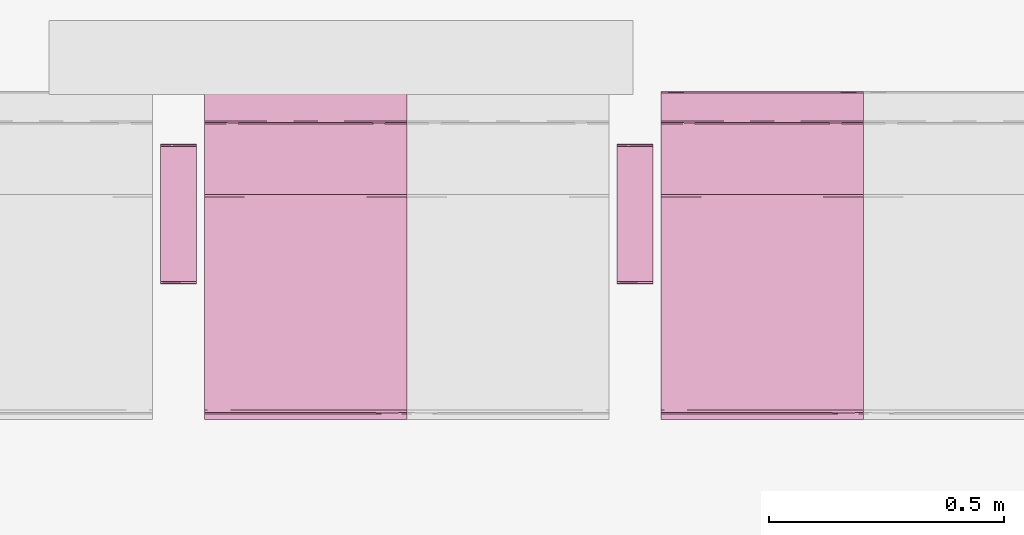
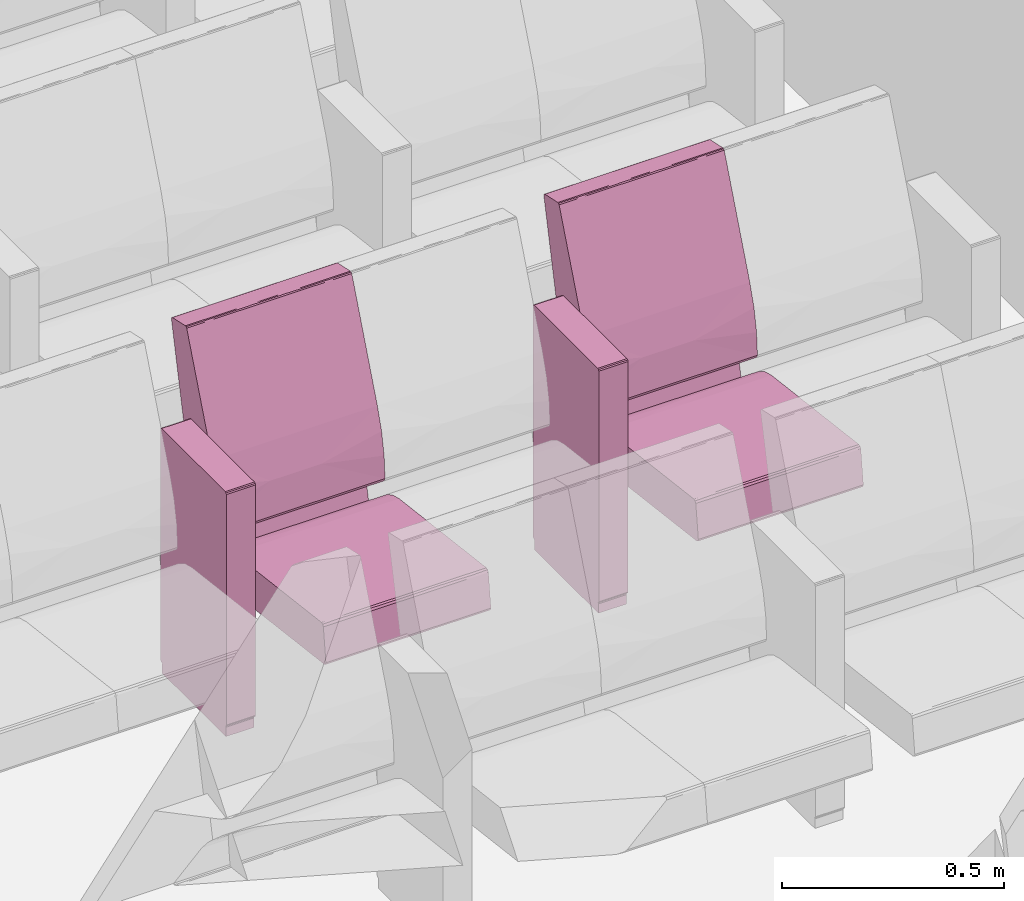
# One storey, part 134 of 155: 2 furnishings.
"""IFC2X3 building model written with IfcOpenShell, lengths in metres."""

from ifc_helpers import new_model, entity, si_unit, converted_unit, derived_unit, direction, frame, origin, place, context, subcontext, project, spatial, faceted_brep, source, transform, mapped, material, material_list, type_object, type_shapes, element, save


model = new_model("IFC2X3")

# Units and contexts
model_context = context("Model", 3, precision=1e-05, world=origin(), true_north=direction((6.12303176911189e-17, 1.0)))
body_context = subcontext(model_context, "Body", "Model", "MODEL_VIEW")
ifc_project = project(units=[si_unit("LENGTHUNIT", "METRE"), si_unit("AREAUNIT", "SQUARE_METRE"), si_unit("VOLUMEUNIT", "CUBIC_METRE"), converted_unit("PLANEANGLEUNIT", "DEGREE", entity("IfcRatioMeasure", 0.0174532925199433), si_unit("PLANEANGLEUNIT", "RADIAN"), dimensions=[0, 0, 0, 0, 0, 0, 0]), si_unit("MASSUNIT", "GRAM", prefix="KILO"), derived_unit("MASSDENSITYUNIT", [(si_unit("MASSUNIT", "GRAM", prefix="KILO"), 1), (si_unit("LENGTHUNIT", "METRE"), -3)]), si_unit("TIMEUNIT", "SECOND"), si_unit("FREQUENCYUNIT", "HERTZ"), si_unit("THERMODYNAMICTEMPERATUREUNIT", "DEGREE_CELSIUS"), derived_unit("THERMALTRANSMITTANCEUNIT", [(si_unit("MASSUNIT", "GRAM", prefix="KILO"), 1), (si_unit("THERMODYNAMICTEMPERATUREUNIT", "KELVIN"), -1), (si_unit("TIMEUNIT", "SECOND"), -3)]), derived_unit("VOLUMETRICFLOWRATEUNIT", [(si_unit("LENGTHUNIT", "METRE"), 3), (si_unit("TIMEUNIT", "SECOND"), -1)]), si_unit("ELECTRICCURRENTUNIT", "AMPERE"), si_unit("ELECTRICVOLTAGEUNIT", "VOLT"), si_unit("POWERUNIT", "WATT"), si_unit("FORCEUNIT", "NEWTON", prefix="KILO"), si_unit("ILLUMINANCEUNIT", "LUX"), si_unit("LUMINOUSFLUXUNIT", "LUMEN"), si_unit("LUMINOUSINTENSITYUNIT", "CANDELA"), derived_unit("USERDEFINED", [(si_unit("MASSUNIT", "GRAM", prefix="KILO"), -1), (si_unit("LENGTHUNIT", "METRE"), -2), (si_unit("TIMEUNIT", "SECOND"), 3), (si_unit("LUMINOUSFLUXUNIT", "LUMEN"), 1)]), derived_unit("LINEARVELOCITYUNIT", [(si_unit("LENGTHUNIT", "METRE"), 1), (si_unit("TIMEUNIT", "SECOND"), -1)]), si_unit("PRESSUREUNIT", "PASCAL"), derived_unit("USERDEFINED", [(si_unit("LENGTHUNIT", "METRE"), -2), (si_unit("MASSUNIT", "GRAM", prefix="KILO"), 1), (si_unit("TIMEUNIT", "SECOND"), -2)])], contexts=[model_context])

# Site, building, storey, space
site_placement = place(None, frame((26.9889013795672, -17.5624287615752, 0.0)))
site = spatial("IfcSite", under=ifc_project, at=site_placement, Name="Default", CompositionType="ELEMENT")
building_placement = place(site_placement, origin())
building = spatial("IfcBuilding", under=site, at=building_placement, Name="C. C. L. Monsenhor Antônio Sampaio", CompositionType="ELEMENT")
storey_placement = place(building_placement, frame((0.0, 0.0, 1.19999999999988)))
storey = spatial("IfcBuildingStorey", under=building, at=storey_placement, Name="Nível 1.2", CompositionType="ELEMENT", Elevation=1.19999999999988)
space_placement = place(storey_placement, origin())
space = spatial("IfcSpace", under=storey, at=space_placement, Name="94", CompositionType="ELEMENT", InteriorOrExteriorSpace="INTERNAL")

# Furnishings
ifc_material_1 = material(Name="V9 - V9 - Ecopelle_672_658")
ifc_material_2 = material(Name="V9 - V9 - RAL_9006_Grigio")
ifc_material_list_1 = material_list([ifc_material_1, ifc_material_2])
ifc_material_list_2 = material_list([ifc_material_1, ifc_material_2])
furniture_type = type_object("IfcFurnitureType", Name="Cadeira auditório", material=ifc_material_list_2)
shared_shape = source(origin(), body_context, "Body", "Brep", [
    faceted_brep([(0.405536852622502, 0.156348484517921, 0.339809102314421), (0.410560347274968, 0.131924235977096, 0.34246450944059), (0.405536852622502, 0.1075, 0.339809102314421), (0.405536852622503, 0.0537499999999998, 0.339809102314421), (0.410597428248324, 0.084060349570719, 0.342506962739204), (0.41079981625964, 0.0179166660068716, 0.342749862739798), (0.405536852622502, 0.215, 0.339809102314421), (0.410248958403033, 0.173608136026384, 0.342130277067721), (0.412515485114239, 0.185674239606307, 0.348529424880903), (0.412515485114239, 0.143333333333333, 0.348529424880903), (0.410560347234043, -0.131924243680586, 0.342464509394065), (0.405536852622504, -0.156348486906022, 0.33980910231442), (0.405536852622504, -0.1075, 0.33980910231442), (0.405536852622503, 0.0, 0.33980910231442), (0.41251548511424, 0.0, 0.348529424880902), (0.411170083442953, -0.0341365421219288, 0.343251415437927), (0.41059742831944, -0.0840603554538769, 0.342506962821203), (0.41251548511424, -0.143333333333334, 0.348529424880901), (0.412515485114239, 0.0358333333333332, 0.348529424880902), (0.412515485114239, 0.0716666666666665, 0.348529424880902), (0.405536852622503, -0.0537500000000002, 0.33980910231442), (0.412515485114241, -0.185674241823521, 0.348529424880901), (0.410799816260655, -0.215, 0.342749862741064), (0.410248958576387, -0.173608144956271, 0.342130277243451), (0.410799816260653, 0.215, 0.342749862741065), (0.412515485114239, 0.215, 0.348529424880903), (0.412515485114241, -0.215, 0.348529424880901), (0.41251548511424, -0.0716666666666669, 0.348529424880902), (0.405536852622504, -0.215, 0.33980910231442), (-0.0557900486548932, -0.215, 0.28268145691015), (-0.055790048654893, -0.168631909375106, 0.282681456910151), (-0.0557900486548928, -0.138065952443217, 0.282681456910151), (-0.0557900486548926, -0.107499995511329, 0.282681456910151), (-0.0557900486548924, -0.0806249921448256, 0.282681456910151), (-0.0557900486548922, -0.0537499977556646, 0.282681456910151), (-0.0557900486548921, -0.0268750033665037, 0.282681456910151), (-0.0557900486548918, 0.0, 0.28268145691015), (-0.0557900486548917, 0.0268749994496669, 0.282681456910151), (-0.0557900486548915, 0.0537499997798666, 0.282681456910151), (-0.0557900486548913, 0.0806250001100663, 0.282681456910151), (-0.0557900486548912, 0.107499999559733, 0.282681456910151), (-0.055790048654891, 0.134374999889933, 0.282681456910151), (-0.0557900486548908, 0.161250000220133, 0.282681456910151), (-0.0557900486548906, 0.1881249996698, 0.282681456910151), (-0.0557900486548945, 0.215, 0.28268145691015), (-0.0594787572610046, -0.0152829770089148, 0.283700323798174), (-0.0613666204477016, 0.0, 0.287029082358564), (-0.0594787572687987, 0.0179017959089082, 0.283700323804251), (-0.0613666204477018, 0.191815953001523, 0.287029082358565), (-0.0613666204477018, 0.215, 0.287029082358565), (-0.0594787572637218, 0.215, 0.283700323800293), (-0.0593340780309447, 0.0671874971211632, 0.283591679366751), (-0.0613666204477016, 0.030565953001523, 0.287029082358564), (-0.0594787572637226, -0.215, 0.283700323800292), (-0.0593337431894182, -0.184174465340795, 0.283591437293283), (-0.0613666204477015, -0.122263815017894, 0.287029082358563), (-0.0613666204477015, -0.0916978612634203, 0.287029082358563), (-0.0613666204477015, -0.0611319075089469, 0.287029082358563), (-0.0593023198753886, -0.0940625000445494, 0.283568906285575), (-0.059382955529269, 0.118123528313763, 0.28362747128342), (-0.0613666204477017, 0.122263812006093, 0.287029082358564), (-0.0597338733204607, 0.147039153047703, 0.283913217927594), (-0.0613666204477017, 0.168631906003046, 0.287029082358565), (-0.0592501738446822, 0.180223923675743, 0.283532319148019), (-0.0588783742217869, 0.0926899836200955, 0.283298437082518), (-0.0613666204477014, -0.215, 0.287029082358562), (-0.0613666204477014, -0.168631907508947, 0.287029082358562), (-0.0592576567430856, -0.123736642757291, 0.283537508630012), (-0.0594787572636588, -0.153348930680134, 0.283700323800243), (-0.0613666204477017, 0.0916978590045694, 0.287029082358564), (-0.0613666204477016, -0.0305659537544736, 0.287029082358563), (-0.059645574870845, -0.045848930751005, 0.283836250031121), (-0.0613666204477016, 0.0611319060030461, 0.287029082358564), (-0.069340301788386, -0.215, 0.351419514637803), (-0.0693403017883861, -0.143333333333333, 0.351419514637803), (-0.0693403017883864, -0.0716666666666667, 0.351419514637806), (-0.0693403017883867, 0.0, 0.351419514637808), (-0.069340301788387, 0.0716666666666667, 0.351419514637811), (-0.0693403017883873, 0.143333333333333, 0.351419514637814), (-0.0693403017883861, 0.215, 0.351419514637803), (-0.0597085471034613, 0.0, 0.37476954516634), (-0.0645543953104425, 0.112272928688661, 0.369803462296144), (-0.0653387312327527, 0.0126787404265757, 0.368680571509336), (-0.0681665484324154, -0.0888707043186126, 0.36292533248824), (-0.0655136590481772, -0.10440004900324, 0.368411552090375), (-0.0694879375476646, 0.0590582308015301, 0.356377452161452), (-0.0695056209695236, -0.125492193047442, 0.356093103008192), (-0.0597085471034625, -0.110316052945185, 0.374769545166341), (-0.0690003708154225, 0.132942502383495, 0.359900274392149), (-0.0672851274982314, 0.108066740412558, 0.365148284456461), (-0.0676206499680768, 0.215, 0.364371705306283), (-0.0686241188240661, 0.215, 0.356813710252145), (-0.0686241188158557, -0.214999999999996, 0.356813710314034), (-0.0686999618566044, 0.0358333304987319, 0.36116674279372), (-0.0694502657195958, -0.0358333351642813, 0.356863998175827), (-0.0676206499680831, -0.214999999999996, 0.364371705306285), (-0.0636645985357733, -0.214999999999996, 0.369570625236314), (-0.0597085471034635, -0.214999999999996, 0.374769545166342), (-0.0597085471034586, 0.215, 0.374769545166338), (-0.0636645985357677, 0.215, 0.36957062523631), (-0.0597085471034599, 0.110316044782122, 0.374769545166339), (-0.0324117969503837, 0.215, 0.390639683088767), (-0.0324117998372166, 0.0436847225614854, 0.39063968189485), (-0.0018793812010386, 0.215, 0.398686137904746), (-0.041847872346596, -0.0856576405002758, 0.386239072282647), (-0.0324117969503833, -0.215, 0.390639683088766), (-0.00187938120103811, -0.215, 0.398686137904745), (-0.00187938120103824, -0.102488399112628, 0.398686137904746), (-0.0219042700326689, -0.0570631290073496, 0.394412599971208), (-0.00187938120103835, 0.0, 0.398686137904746), (0.392202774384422, 0.215, 0.447486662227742), (0.392202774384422, -0.215, 0.447486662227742), (0.392202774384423, -0.156349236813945, 0.447486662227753), (0.392202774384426, -0.107499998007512, 0.447486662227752), (0.392202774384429, -0.0537500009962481, 0.44748666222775), (0.392202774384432, 0.0, 0.447486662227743), (0.392202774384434, 0.0537499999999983, 0.447486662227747), (0.392202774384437, 0.107499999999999, 0.447486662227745), (0.392202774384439, 0.156349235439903, 0.447486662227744), (0.398104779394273, -0.131924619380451, 0.445856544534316), (0.401125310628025, -0.0976984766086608, 0.440530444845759), (0.397860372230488, -0.0827732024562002, 0.446039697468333), (0.401125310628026, -0.215000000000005, 0.440530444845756), (0.401125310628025, -0.156349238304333, 0.440530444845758), (0.397373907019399, -0.173462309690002, 0.446363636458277), (0.398104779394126, -0.215000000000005, 0.445856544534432), (0.397860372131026, 0.0827731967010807, 0.446039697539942), (0.398104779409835, 0.131924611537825, 0.445856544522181), (0.398104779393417, -0.0237489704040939, 0.445856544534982), (0.398104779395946, 0.0268749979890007, 0.445856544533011), (0.401125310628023, 0.0488492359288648, 0.440530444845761), (0.401125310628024, -0.0488492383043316, 0.440530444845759), (0.398774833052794, 0.173462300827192, 0.445271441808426), (0.401125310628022, 0.097698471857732, 0.440530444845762), (0.401125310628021, 0.215, 0.440530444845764), (0.39810477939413, 0.215, 0.445856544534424), (0.401125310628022, 0.156349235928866, 0.440530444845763), (0.401125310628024, 0.0, 0.44053044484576)], [[[0, 1, 2]], [[3, 4, 5]], [[6, 7, 0]], [[7, 8, 9]], [[10, 11, 12]], [[3, 5, 13]], [[14, 15, 5]], [[16, 17, 10]], [[9, 1, 7]], [[18, 5, 4]], [[4, 9, 19, 18]], [[9, 4, 1]], [[2, 1, 4]], [[13, 15, 20]], [[21, 22, 23]], [[5, 18, 14]], [[24, 25, 8]], [[22, 21, 26]], [[24, 7, 6]], [[23, 11, 10]], [[20, 15, 16]], [[3, 2, 4]], [[14, 27, 15]], [[5, 15, 13]], [[27, 17, 16]], [[10, 12, 16]], [[21, 23, 17]], [[20, 16, 12]], [[15, 27, 16]], [[7, 1, 0]], [[28, 11, 23]], [[8, 7, 24]], [[23, 10, 17]], [[28, 23, 22]], [[28, 29, 30, 31, 32, 33, 34, 35, 36, 37, 38, 39, 40, 41, 42, 43, 44, 6, 0, 2, 3, 13, 20, 12, 11]], [[45, 46, 47]], [[48, 49, 50]], [[51, 47, 52]], [[29, 53, 54]], [[55, 56, 57, 58]], [[59, 60, 61]], [[61, 62, 63]], [[51, 64, 39]], [[65, 66, 54]], [[31, 67, 32]], [[45, 47, 38, 37, 36, 35]], [[68, 31, 30]], [[43, 50, 44]], [[63, 42, 61]], [[48, 50, 63]], [[64, 69, 59]], [[68, 54, 66]], [[63, 62, 48]], [[50, 43, 63]], [[67, 55, 58]], [[61, 42, 41]], [[45, 70, 46]], [[55, 68, 66]], [[71, 33, 58]], [[71, 57, 70]], [[41, 40, 59]], [[60, 62, 61]], [[71, 35, 34, 33]], [[35, 71, 45]], [[47, 46, 52]], [[45, 71, 70]], [[58, 57, 71]], [[32, 58, 33]], [[31, 68, 67]], [[54, 68, 30]], [[29, 54, 30]], [[54, 53, 65]], [[55, 67, 68]], [[32, 67, 58]], [[51, 52, 72, 69]], [[43, 42, 63]], [[41, 59, 61]], [[47, 51, 38]], [[40, 39, 64]], [[38, 51, 39]], [[69, 60, 59]], [[69, 64, 51]], [[40, 64, 59]], [[65, 73, 74, 75, 76, 77, 78, 79, 49, 48, 62, 60, 69, 72, 52, 46, 70, 57, 56, 55, 66]], [[80, 81, 82]], [[82, 83, 84]], [[78, 77, 76, 85]], [[86, 75, 74]], [[84, 80, 82]], [[80, 84, 87]], [[88, 89, 90]], [[91, 79, 78]], [[74, 73, 92]], [[85, 88, 91]], [[81, 89, 82]], [[93, 94, 83]], [[94, 86, 83]], [[85, 76, 94]], [[92, 86, 74]], [[85, 94, 93]], [[83, 92, 95]], [[75, 94, 76]], [[93, 83, 82]], [[95, 96, 84]], [[88, 85, 93]], [[96, 97, 87]], [[98, 99, 100]], [[78, 85, 91]], [[89, 88, 93]], [[90, 91, 88]], [[93, 82, 89]], [[81, 99, 89]], [[99, 90, 89]], [[100, 81, 80]], [[100, 99, 81]], [[83, 86, 92]], [[75, 86, 94]], [[95, 84, 83]], [[87, 84, 96]], [[101, 102, 103]], [[104, 80, 87, 97]], [[105, 106, 107]], [[107, 108, 105]], [[103, 102, 109]], [[104, 102, 80]], [[104, 108, 102]], [[98, 102, 101]], [[105, 104, 97]], [[105, 108, 104]], [[102, 98, 100, 80]], [[109, 108, 107]], [[109, 102, 108]], [[110, 103, 109, 107, 106, 111, 112, 113, 114, 115, 116, 117, 118]], [[119, 120, 121]], [[122, 123, 124]], [[111, 125, 124]], [[117, 116, 126]], [[124, 119, 112]], [[113, 112, 119]], [[127, 118, 117]], [[115, 114, 128, 129, 116]], [[129, 130, 126]], [[121, 131, 128]], [[127, 132, 118]], [[110, 118, 132]], [[127, 126, 133]], [[119, 124, 123]], [[134, 135, 132]], [[136, 132, 127]], [[120, 119, 123]], [[133, 136, 127]], [[137, 130, 129, 128, 131]], [[126, 127, 117]], [[130, 133, 126]], [[113, 119, 121]], [[129, 126, 116]], [[128, 114, 121]], [[114, 113, 121]], [[131, 121, 120]], [[111, 124, 112]], [[124, 125, 122]], [[134, 132, 136]], [[132, 135, 110]], [[19, 9, 8, 25, 134, 136, 133, 130, 137, 131, 120, 123, 122, 26, 21, 17, 27, 14, 18]], [[65, 53, 29, 28, 22, 26, 122, 125, 111, 106, 105, 97, 96, 95, 92, 73]], [[98, 101, 103, 110, 135, 134, 25, 24, 6, 44, 50, 49, 79, 91, 90, 99]]]),
    faceted_brep([(0.123144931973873, -0.283972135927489, 0.673627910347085), (0.12334838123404, -0.259944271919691, 0.6734355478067), (0.119812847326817, -0.27, 0.674900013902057), (0.124812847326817, -0.27, 0.669900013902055), (0.12334838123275, -0.232, 0.673435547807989), (0.119812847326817, -0.232, 0.674900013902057), (0.124812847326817, -0.308, 0.669900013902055), (0.119812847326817, -0.308, 0.674900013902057), (0.124812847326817, -0.249888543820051, 0.669900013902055), (0.124812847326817, -0.232, 0.669900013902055), (0.12334838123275, -0.308, 0.673435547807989), (0.124812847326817, -0.27, 0.035), (0.124812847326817, -0.232, 0.035), (0.124812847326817, -0.308, 0.0350000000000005), (0.123540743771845, -0.283972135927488, 0.0316679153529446), (0.12334838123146, -0.25994427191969, 0.0314644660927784), (0.119812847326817, -0.27, 0.0300000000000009), (0.12334838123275, -0.232, 0.0314644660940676), (0.119812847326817, -0.308, 0.0300000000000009), (0.119812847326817, -0.249888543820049, 0.030000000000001), (0.119812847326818, -0.232, 0.030000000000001), (0.123348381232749, -0.308, 0.0314644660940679), (-0.167179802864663, -0.308, 0.0300000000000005), (-0.167179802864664, -0.27, 0.0300000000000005), (-0.167179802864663, -0.232, 0.0300000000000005), (-0.17051188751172, -0.283972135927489, 0.0312721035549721), (-0.170715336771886, -0.25994427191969, 0.0314644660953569), (-0.172179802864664, -0.27, 0.0350000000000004), (-0.170715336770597, -0.232, 0.0314644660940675), (-0.172179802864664, -0.308, 0.0350000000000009), (-0.172179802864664, -0.24988854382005, 0.0350000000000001), (-0.172179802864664, -0.232, 0.0349999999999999), (-0.170715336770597, -0.308, 0.0314644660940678), (-0.172179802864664, -0.308, 0.669900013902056), (-0.172179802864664, -0.27, 0.669900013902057), (-0.172179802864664, -0.232, 0.669900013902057), (-0.170907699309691, -0.283972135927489, 0.673232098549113), (-0.170715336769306, -0.259944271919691, 0.673435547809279), (-0.167179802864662, -0.27, 0.674900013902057), (-0.170715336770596, -0.232, 0.67343554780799), (-0.167179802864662, -0.308, 0.674900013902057), (-0.167179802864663, -0.249888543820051, 0.674900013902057), (-0.167179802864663, -0.232, 0.674900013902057), (-0.170715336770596, -0.308, 0.67343554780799)], [[[0, 1, 2]], [[1, 0, 3]], [[1, 4, 5, 2]], [[6, 3, 0]], [[7, 0, 2]], [[4, 1, 3, 8, 9]], [[10, 0, 7]], [[0, 10, 6]], [[11, 12, 9, 8, 3, 6, 13]], [[14, 15, 11]], [[15, 14, 16]], [[15, 17, 12, 11]], [[18, 16, 14]], [[13, 14, 11]], [[17, 15, 16, 19, 20]], [[21, 14, 13]], [[14, 21, 18]], [[18, 22, 23, 24, 20, 19, 16]], [[25, 26, 23]], [[26, 25, 27]], [[26, 28, 24, 23]], [[29, 27, 25]], [[22, 25, 23]], [[28, 26, 27, 30, 31]], [[32, 25, 22]], [[25, 32, 29]], [[27, 29, 33, 34, 35, 31, 30]], [[36, 37, 34]], [[37, 36, 38]], [[37, 39, 35, 34]], [[40, 38, 36]], [[33, 36, 34]], [[39, 37, 38, 41, 42]], [[43, 36, 33]], [[36, 43, 40]], [[40, 7, 2, 5, 42, 41, 38]], [[35, 39, 42, 5, 4, 9, 12, 17, 20, 24, 28, 31]], [[29, 32, 22, 18, 21, 13, 6, 10, 7, 40, 43, 33]]]),
    faceted_brep([(-0.0695672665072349, 0.215, 0.476508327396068), (-0.074405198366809, 0.0524423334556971, 0.506888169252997), (-0.0655618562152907, 0.215, 0.415143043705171), (-0.0744051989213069, -0.0780075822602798, 0.506888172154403), (-0.0655618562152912, 0.0, 0.415143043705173), (-0.0655618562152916, -0.215, 0.415143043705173), (-0.0655618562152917, -0.1075, 0.415143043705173), (-0.0655618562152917, 0.1075, 0.415143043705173), (-0.0695672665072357, -0.215, 0.476508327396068), (-0.081111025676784, -0.215, 0.536911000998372), (-0.0811110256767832, 0.215, 0.536911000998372), (-0.100016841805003, 0.215, 0.595428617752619), (-0.100016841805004, 0.0, 0.595428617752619), (-0.100016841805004, -0.215, 0.595428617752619), (-0.0698317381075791, 0.0358333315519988, 0.406528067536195), (-0.0792851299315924, 0.0, 0.404772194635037), (-0.0792851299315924, 0.0716666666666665, 0.404772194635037), (-0.0792851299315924, -0.215, 0.404772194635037), (-0.0792851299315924, -0.143333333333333, 0.404772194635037), (-0.0698317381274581, -0.215, 0.406528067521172), (-0.0792851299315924, 0.143333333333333, 0.404772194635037), (-0.0792851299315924, 0.215, 0.404772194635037), (-0.0698317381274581, 0.215, 0.406528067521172), (-0.0694171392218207, 0.140338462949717, 0.406857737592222), (-0.0708115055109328, -0.0356393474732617, 0.405868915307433), (-0.0703502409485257, -0.107500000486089, 0.406159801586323), (-0.0792851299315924, -0.0716666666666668, 0.404772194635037), (-0.163837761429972, -0.215, 0.420611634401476), (-0.163837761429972, 0.215, 0.420611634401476), (-0.123612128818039, 0.215, 0.235917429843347), (-0.123612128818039, -0.215, 0.235917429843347), (-0.142059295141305, -0.215, 0.231899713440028), (-0.142059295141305, 0.215, 0.231899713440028), (-0.235388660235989, -0.215, 0.652619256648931), (-0.235388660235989, 0.215, 0.652619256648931), (-0.28428001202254, -0.215, 0.873004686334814), (-0.284280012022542, -0.191295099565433, 0.873004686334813), (-0.284280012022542, -0.161249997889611, 0.873004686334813), (-0.284280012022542, -0.134374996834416, 0.873004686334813), (-0.284280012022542, -0.107499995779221, 0.873004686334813), (-0.284280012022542, -0.0806249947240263, 0.873004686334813), (-0.284280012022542, -0.0537499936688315, 0.873004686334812), (-0.284280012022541, -0.0268749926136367, 0.873004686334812), (-0.28428001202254, 0.0, 0.873004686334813), (-0.284280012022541, 0.0268749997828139, 0.873004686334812), (-0.284280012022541, 0.0537500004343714, 0.873004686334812), (-0.284280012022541, 0.0806250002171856, 0.873004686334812), (-0.284280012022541, 0.1075, 0.873004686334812), (-0.284280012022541, 0.134374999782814, 0.873004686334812), (-0.28428001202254, 0.161249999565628, 0.873004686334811), (-0.28428001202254, 0.191295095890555, 0.873004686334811), (-0.28428001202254, 0.215, 0.873004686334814), (-0.283746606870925, 0.0872244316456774, 0.876674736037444), (-0.283504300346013, 0.0569644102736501, 0.877068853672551), (-0.283567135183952, -0.15546176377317, 0.876973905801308), (-0.283641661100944, -0.12093750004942, 0.87685511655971), (-0.283567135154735, 0.155461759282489, 0.876973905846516), (-0.28330409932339, 0.185293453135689, 0.877344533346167), (-0.283641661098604, 0.0179166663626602, 0.876855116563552), (-0.283641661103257, -0.0136463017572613, 0.876855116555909), (-0.280514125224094, -0.0358333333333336, 0.879190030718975), (-0.280514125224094, 0.0, 0.879190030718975), (-0.280514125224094, 0.0358333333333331, 0.879190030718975), (-0.280514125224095, -0.143333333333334, 0.879190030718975), (-0.280514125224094, -0.1075, 0.879190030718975), (-0.280514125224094, -0.071666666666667, 0.879190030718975), (-0.283746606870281, -0.0872244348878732, 0.876674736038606), (-0.280514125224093, 0.0716666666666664, 0.879190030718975), (-0.280514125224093, 0.1075, 0.879190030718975), (-0.283641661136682, 0.120937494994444, 0.876855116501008), (-0.280514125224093, 0.143333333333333, 0.879190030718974), (-0.283641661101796, 0.215, 0.876855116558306), (-0.283641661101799, -0.215, 0.876855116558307), (-0.283304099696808, -0.18529345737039, 0.877344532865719), (-0.280514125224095, -0.167590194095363, 0.879190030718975), (-0.280514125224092, 0.215, 0.879190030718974), (-0.280514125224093, 0.167590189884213, 0.879190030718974), (-0.280514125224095, -0.215, 0.879190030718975), (-0.283504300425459, -0.0569644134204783, 0.8770688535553), (-0.22111253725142, 0.215, 0.892176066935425), (-0.22111253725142, -0.215, 0.892176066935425), (-0.221112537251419, -0.191815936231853, 0.892176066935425), (-0.221112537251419, -0.161250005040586, 0.892176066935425), (-0.221112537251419, -0.134375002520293, 0.892176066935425), (-0.221112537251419, -0.1075, 0.892176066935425), (-0.221112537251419, -0.080624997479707, 0.892176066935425), (-0.221112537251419, -0.0537499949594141, 0.892176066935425), (-0.221112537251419, -0.0268750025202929, 0.892176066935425), (-0.221112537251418, 0.0, 0.892176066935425), (-0.221112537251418, 0.0268750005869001, 0.892176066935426), (-0.221112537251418, 0.05375000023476, 0.892176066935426), (-0.221112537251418, 0.0806249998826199, 0.892176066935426), (-0.221112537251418, 0.10749999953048, 0.892176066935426), (-0.221112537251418, 0.13437499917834, 0.892176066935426), (-0.221112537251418, 0.16124999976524, 0.892176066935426), (-0.221112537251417, 0.19181594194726, 0.892176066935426), (-0.215419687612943, 0.0, 0.889191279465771), (-0.215419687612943, 0.0358333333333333, 0.889191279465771), (-0.217722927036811, 0.0162353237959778, 0.891719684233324), (-0.217722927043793, -0.0134375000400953, 0.891719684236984), (-0.215419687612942, -0.191815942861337, 0.889191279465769), (-0.215419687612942, -0.168631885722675, 0.889191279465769), (-0.217722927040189, -0.182482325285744, 0.891719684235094), (-0.217722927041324, -0.215, 0.891719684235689), (-0.215419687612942, -0.215, 0.889191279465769), (-0.215419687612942, -0.1075, 0.88919127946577), (-0.215419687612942, -0.0716666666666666, 0.88919127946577), (-0.217722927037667, -0.0912646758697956, 0.891719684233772), (-0.217722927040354, -0.120937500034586, 0.89171968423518), (-0.215419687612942, -0.143333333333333, 0.88919127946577), (-0.215419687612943, 0.191815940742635, 0.889191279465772), (-0.215419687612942, 0.215, 0.889191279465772), (-0.217722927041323, 0.215, 0.89171968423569), (-0.217722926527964, 0.190103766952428, 0.891719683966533), (-0.217722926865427, 0.0912646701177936, 0.891719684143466), (-0.217816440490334, 0.0647800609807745, 0.891767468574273), (-0.215419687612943, 0.0716666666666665, 0.889191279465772), (-0.217816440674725, -0.0647800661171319, 0.891767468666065), (-0.2179983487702, -0.0390825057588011, 0.891853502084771), (-0.217558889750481, -0.155982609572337, 0.891629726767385), (-0.217722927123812, 0.120937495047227, 0.891719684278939), (-0.215419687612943, 0.16863188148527, 0.889191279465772), (-0.215419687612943, 0.143333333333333, 0.889191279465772), (-0.217558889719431, 0.15598260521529, 0.891629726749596), (-0.215419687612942, -0.0358333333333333, 0.889191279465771), (-0.215419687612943, 0.1075, 0.889191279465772), (-0.218257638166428, 0.0404491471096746, 0.891961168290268)], [[[0, 1, 2]], [[1, 3, 4]], [[3, 5, 6, 4]], [[1, 4, 7, 2]], [[5, 3, 8]], [[8, 3, 9]], [[0, 10, 1]], [[11, 12, 1]], [[3, 13, 9]], [[3, 12, 13]], [[11, 1, 10]], [[3, 1, 12]], [[14, 15, 16]], [[17, 18, 19]], [[20, 21, 22]], [[2, 23, 22]], [[14, 7, 4]], [[14, 24, 15]], [[6, 25, 24]], [[22, 23, 20]], [[14, 23, 7]], [[19, 6, 5]], [[4, 24, 14]], [[16, 23, 14]], [[16, 20, 23]], [[26, 25, 18]], [[25, 19, 18]], [[15, 24, 26]], [[23, 2, 7]], [[19, 25, 6]], [[26, 24, 25]], [[6, 24, 4]], [[15, 26, 18, 17, 27, 28, 21, 20, 16]], [[29, 28, 27, 30]], [[30, 31, 32, 29]], [[32, 31, 33, 34]], [[34, 33, 35, 36, 37, 38, 39, 40, 41, 42, 43, 44, 45, 46, 47, 48, 49, 50, 51]], [[52, 46, 53]], [[38, 54, 55]], [[56, 57, 49]], [[58, 59, 60, 61, 62]], [[63, 64, 55]], [[64, 65, 66]], [[52, 67, 68]], [[69, 70, 56]], [[49, 57, 50]], [[38, 55, 39]], [[71, 51, 50]], [[36, 35, 72]], [[59, 58, 44, 43, 42]], [[73, 74, 54]], [[55, 66, 39]], [[75, 57, 76]], [[77, 74, 73]], [[69, 52, 68]], [[37, 36, 73]], [[54, 74, 63]], [[56, 76, 57]], [[36, 72, 73]], [[75, 71, 57]], [[70, 76, 56]], [[52, 69, 47]], [[48, 47, 69]], [[42, 78, 59]], [[66, 55, 64]], [[50, 57, 71]], [[73, 54, 37]], [[77, 73, 72]], [[48, 69, 56]], [[56, 49, 48]], [[69, 68, 70]], [[53, 46, 45, 44]], [[58, 62, 53]], [[53, 44, 58]], [[38, 37, 54]], [[63, 55, 54]], [[78, 66, 65]], [[78, 40, 66]], [[67, 52, 53]], [[78, 42, 41, 40]], [[65, 60, 78]], [[59, 78, 60]], [[52, 47, 46]], [[40, 39, 66]], [[62, 67, 53]], [[79, 75, 76, 70, 68, 67, 62, 61, 60, 65, 64, 63, 74, 77, 80, 81, 82, 83, 84, 85, 86, 87, 88, 89, 90, 91, 92, 93, 94, 95]], [[96, 97, 98, 99]], [[100, 101, 102, 103, 104]], [[105, 106, 107, 108, 109]], [[110, 111, 112]], [[113, 112, 95]], [[114, 115, 116]], [[117, 118, 86]], [[82, 119, 83]], [[102, 82, 81, 80, 103]], [[112, 79, 95]], [[108, 107, 85, 84, 83]], [[88, 87, 99, 98, 89]], [[119, 101, 109]], [[93, 92, 120]], [[117, 85, 107]], [[113, 121, 110]], [[122, 121, 123]], [[113, 94, 123]], [[124, 99, 118]], [[122, 123, 120]], [[108, 119, 109]], [[113, 110, 112]], [[102, 101, 119]], [[119, 108, 83]], [[114, 125, 120]], [[123, 94, 93]], [[93, 120, 123]], [[114, 120, 92]], [[122, 120, 125]], [[117, 107, 106]], [[114, 92, 91]], [[116, 125, 114]], [[115, 91, 90]], [[85, 117, 86]], [[126, 89, 98]], [[117, 106, 124]], [[118, 99, 87]], [[124, 96, 99]], [[97, 116, 115]], [[97, 115, 126]], [[86, 118, 87]], [[124, 118, 117]], [[91, 115, 114]], [[115, 90, 126]], [[89, 126, 90]], [[97, 126, 98]], [[82, 102, 119]], [[94, 113, 95]], [[121, 113, 123]], [[11, 111, 110, 121, 122, 125, 116, 97, 96, 124, 106, 105, 109, 101, 100, 104, 13, 12]], [[27, 17, 19, 5, 8, 9, 13, 104, 103, 80, 77, 72, 35, 33, 31, 30]], [[51, 71, 75, 79, 112, 111, 11, 10, 0, 2, 22, 21, 28, 29, 32, 34]]]),
    faceted_brep([(0.120312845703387, -0.2335, 0.0), (0.120312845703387, -0.2335, 0.0260000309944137), (0.120312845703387, -0.249500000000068, 0.0260000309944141), (0.120312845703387, -0.27, 0.0260000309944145), (0.120312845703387, -0.3065, 0.0260000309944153), (0.120312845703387, -0.3065, 0.0), (-0.167687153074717, -0.3065, 0.0), (-0.167687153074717, -0.2335, 0.0), (-0.167687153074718, -0.27, 0.0260000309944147), (-0.167687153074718, -0.2335, 0.0260000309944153), (-0.167687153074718, -0.3065, 0.0260000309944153), (-0.166521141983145, -0.233500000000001, 0.0288228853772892), (-0.166521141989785, -0.257382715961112, 0.0288228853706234), (-0.163702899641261, -0.233500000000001, 0.0300000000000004), (-0.163702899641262, -0.3065, 0.0300000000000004), (-0.16652114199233, -0.279986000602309, 0.0288228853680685), (-0.166521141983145, -0.3065, 0.0288228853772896), (-0.163702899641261, -0.27, 0.0300000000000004), (0.116297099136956, -0.3065, 0.0300000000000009), (0.116297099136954, -0.269999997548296, 0.0300000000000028), (0.116297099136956, -0.2335, 0.0300000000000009), (0.119033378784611, -0.283124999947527, 0.0289323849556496), (0.1191357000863, -0.2335, 0.0288340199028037), (0.119135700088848, -0.259750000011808, 0.0288340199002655), (0.119135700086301, -0.3065, 0.0288340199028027)], [[[0, 1, 2, 3, 4, 5]], [[0, 5, 6, 7]], [[8, 9, 7, 6, 10]], [[11, 12, 13]], [[14, 15, 16]], [[15, 14, 17, 13, 12]], [[9, 8, 12, 11]], [[16, 15, 10]], [[8, 10, 15, 12]], [[14, 18, 19, 20, 13, 17]], [[21, 4, 3]], [[22, 20, 19, 23]], [[3, 2, 1, 22, 23]], [[24, 21, 18]], [[21, 3, 23]], [[18, 21, 19]], [[21, 24, 4]], [[21, 23, 19]], [[6, 5, 4, 24, 18, 14, 16, 10]], [[7, 9, 11, 13, 20, 22, 1, 0]]]),
])
type_shapes(furniture_type, [shared_shape])
furnishing_1_placement = place(space_placement, frame((-8.06594929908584, -13.3554126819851, 0.0), z_axis=(0.0, 0.0, 1.0), x_axis=(0.0, -1.0, 0.0)))
element("IfcFurnishingElement", 1, at=furnishing_1_placement, inside=space, type_object=furniture_type, material=ifc_material_list_1, Name="cadeira auditório pcd:Cadeira auditório", ObjectType="Cadeira auditório", context=body_context, shape_type="MappedRepresentation", body=[
    mapped(shared_shape, transform((0.0, 0.0, 0.0), scale=1.0)),
])
ifc_material_list_3 = material_list([ifc_material_1, ifc_material_2])
furnishing_2_placement = place(space_placement, frame((-7.09594929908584, -13.3554126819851, 0.0), z_axis=(0.0, 0.0, 1.0), x_axis=(0.0, -1.0, 0.0)))
element("IfcFurnishingElement", 2, at=furnishing_2_placement, inside=space, type_object=furniture_type, material=ifc_material_list_3, Name="cadeira auditório pcd:Cadeira auditório", ObjectType="Cadeira auditório", context=body_context, shape_type="MappedRepresentation", body=[
    mapped(shared_shape, transform((0.0, 0.0, 0.0), scale=1.0)),
])

save(model, "model.ifc")
